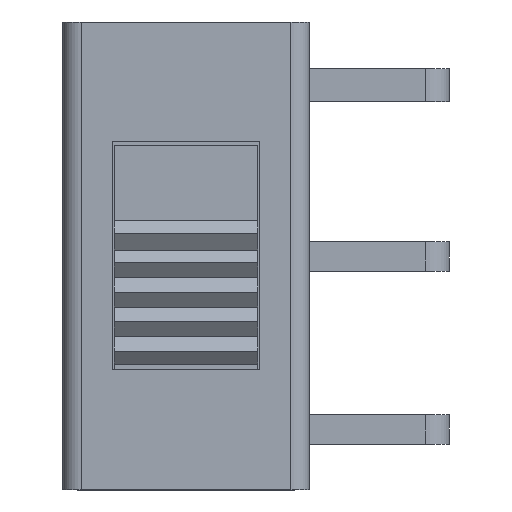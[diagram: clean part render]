
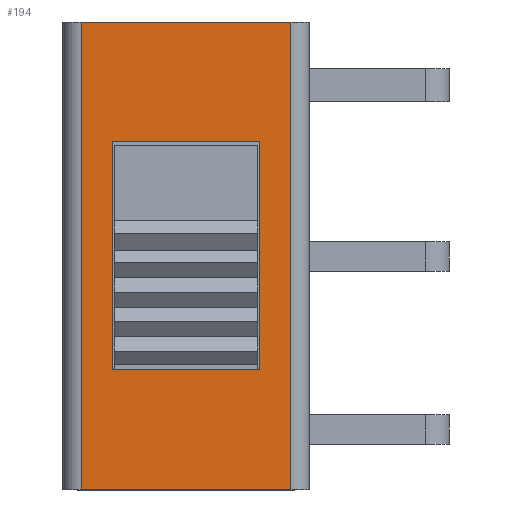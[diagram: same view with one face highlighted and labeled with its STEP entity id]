
A CAD part, top view. The second image highlights one B-rep face of the part: STEP entity #194.
In plain terms, the highlighted planar face has unit normal (0, 0, 1).
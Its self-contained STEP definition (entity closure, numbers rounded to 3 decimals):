
#194=ADVANCED_FACE('',(#1933,#1935),#1937,.T.);
#1933=FACE_BOUND('',#1934,.T.);
#1934=EDGE_LOOP('',(#3301,#3302,#3303,#3304));
#1935=FACE_BOUND('',#1936,.T.);
#1936=EDGE_LOOP('',(#3305,#3306,#3307,#3308));
#1937=PLANE('',#1938);
#1938=AXIS2_PLACEMENT_3D('',#1939,#1940,#1941);
#1939=CARTESIAN_POINT('',(0.,0.,6.8));
#1940=DIRECTION('',(0.,0.,1.));
#1941=DIRECTION('',(1.,0.,0.));
#3301=ORIENTED_EDGE('',*,*,#4315,.T.);
#3302=ORIENTED_EDGE('',*,*,#4305,.T.);
#3303=ORIENTED_EDGE('',*,*,#4316,.T.);
#3304=ORIENTED_EDGE('',*,*,#4310,.T.);
#3305=ORIENTED_EDGE('',*,*,#4302,.T.);
#3306=ORIENTED_EDGE('',*,*,#4295,.T.);
#3307=ORIENTED_EDGE('',*,*,#4298,.T.);
#3308=ORIENTED_EDGE('',*,*,#4300,.T.);
#4295=EDGE_CURVE('',#4816,#4817,#4818,.F.);
#4298=EDGE_CURVE('',#4817,#4821,#4822,.F.);
#4300=EDGE_CURVE('',#4821,#4824,#4825,.F.);
#4302=EDGE_CURVE('',#4824,#4816,#4827,.F.);
#4305=EDGE_CURVE('',#4828,#4830,#4832,.T.);
#4310=EDGE_CURVE('',#4840,#4838,#4841,.T.);
#4315=EDGE_CURVE('',#4838,#4828,#4848,.T.);
#4316=EDGE_CURVE('',#4830,#4840,#4849,.T.);
#4816=VERTEX_POINT('',#5681);
#4817=VERTEX_POINT('',#5682);
#4818=LINE('',#5683,#5684);
#4821=VERTEX_POINT('',#5692);
#4822=LINE('',#5693,#5694);
#4824=VERTEX_POINT('',#5699);
#4825=LINE('',#5700,#5701);
#4827=LINE('',#5706,#5707);
#4828=VERTEX_POINT('',#5709);
#4830=VERTEX_POINT('',#5713);
#4832=LINE('',#5717,#5718);
#4838=VERTEX_POINT('',#5733);
#4840=VERTEX_POINT('',#5737);
#4841=LINE('',#5738,#5739);
#4848=LINE('',#5757,#5758);
#4849=LINE('',#5760,#5761);
#5681=CARTESIAN_POINT('',(-2.,-3.1,6.8));
#5682=CARTESIAN_POINT('',(-2.,3.1,6.8));
#5683=CARTESIAN_POINT('',(-2.,3.1,6.8));
#5684=VECTOR('',#5685,1.);
#5685=DIRECTION('',(0.,-1.,0.));
#5692=CARTESIAN_POINT('',(2.,3.1,6.8));
#5693=CARTESIAN_POINT('',(2.,3.1,6.8));
#5694=VECTOR('',#5695,1.);
#5695=DIRECTION('',(-1.,0.,0.));
#5699=CARTESIAN_POINT('',(2.,-3.1,6.8));
#5700=CARTESIAN_POINT('',(2.,-3.1,6.8));
#5701=VECTOR('',#5702,1.);
#5702=DIRECTION('',(0.,1.,0.));
#5706=CARTESIAN_POINT('',(-2.,-3.1,6.8));
#5707=VECTOR('',#5708,1.);
#5708=DIRECTION('',(1.,0.,0.));
#5709=CARTESIAN_POINT('',(2.85,6.35,6.8));
#5713=CARTESIAN_POINT('',(-2.85,6.35,6.8));
#5717=CARTESIAN_POINT('',(2.85,6.35,6.8));
#5718=VECTOR('',#5719,1.);
#5719=DIRECTION('',(-1.,0.,0.));
#5733=CARTESIAN_POINT('',(2.85,-6.35,6.8));
#5737=CARTESIAN_POINT('',(-2.85,-6.35,6.8));
#5738=CARTESIAN_POINT('',(-2.85,-6.35,6.8));
#5739=VECTOR('',#5740,1.);
#5740=DIRECTION('',(1.,0.,0.));
#5757=CARTESIAN_POINT('',(2.85,-6.35,6.8));
#5758=VECTOR('',#5759,1.);
#5759=DIRECTION('',(0.,1.,0.));
#5760=CARTESIAN_POINT('',(-2.85,6.35,6.8));
#5761=VECTOR('',#5762,1.);
#5762=DIRECTION('',(0.,-1.,0.));
